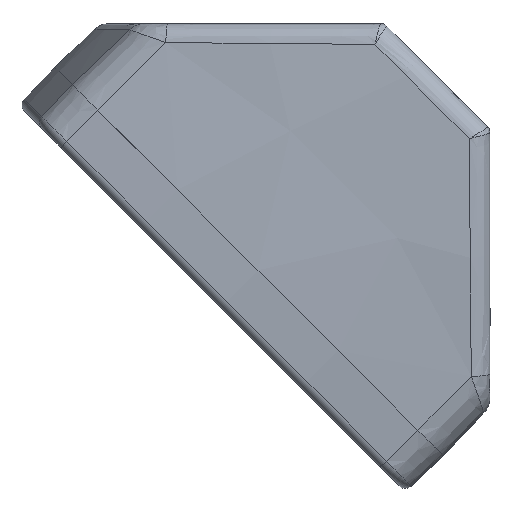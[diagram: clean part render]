
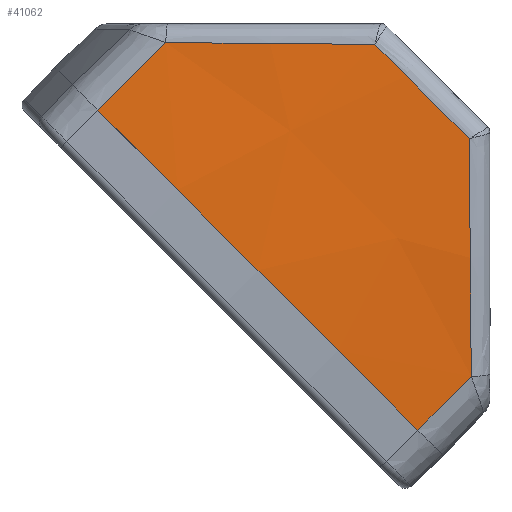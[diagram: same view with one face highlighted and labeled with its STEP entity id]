
A CAD part, left-side view. The second image highlights one B-rep face of the part: STEP entity #41062.
In plain terms, the highlighted conical face has half-angle 1.5 degrees and reference radius 300 mm.
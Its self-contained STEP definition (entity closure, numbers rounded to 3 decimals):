
#2210 = DIRECTION ( 'NONE',  ( -0.026, 0.005, -1. ) ) ;
#3560 = B_SPLINE_CURVE_WITH_KNOTS ( 'NONE', 3,
 ( #16751, #9248, #24138, #27886, #5677, #31631 ),
 .UNSPECIFIED., .F., .F.,
 ( 4, 2, 4 ),
 ( 0., 0.027, 0.054 ),
 .UNSPECIFIED. ) ;
#3817 = B_SPLINE_CURVE_WITH_KNOTS ( 'NONE', 3,
 ( #32305, #43491, #6504, #32464, #10257, #36186 ),
 .UNSPECIFIED., .F., .F.,
 ( 4, 2, 4 ),
 ( 0., 0.024, 0.048 ),
 .UNSPECIFIED. ) ;
#4984 = ORIENTED_EDGE ( 'NONE', *, *, #35418, .T. ) ;
#5677 = CARTESIAN_POINT ( 'NONE',  ( 72.971, -22.132, -48.798 ) ) ;
#5951 = CARTESIAN_POINT ( 'NONE',  ( 70.043, -54.31, 0. ) ) ;
#6504 = CARTESIAN_POINT ( 'NONE',  ( 72.769, 25.996, -43.999 ) ) ;
#7809 = EDGE_CURVE ( 'NONE', #12781, #27726, #3560, .T. ) ;
#9248 = CARTESIAN_POINT ( 'NONE',  ( 70.61, -47.828, -23.531 ) ) ;
#10257 = CARTESIAN_POINT ( 'NONE',  ( 71.242, 42.94, -27.337 ) ) ;
#11807 = VECTOR ( 'NONE', #41059, 1000. ) ;
#12781 = VERTEX_POINT ( 'NONE', #27040 ) ;
#12990 = LINE ( 'NONE', #37303, #11807 ) ;
#14049 = VERTEX_POINT ( 'NONE', #39210 ) ;
#15008 = ORIENTED_EDGE ( 'NONE', *, *, #30582, .T. ) ;
#16377 = AXIS2_PLACEMENT_3D ( 'NONE', #39046, #16867, #42790 ) ;
#16751 = CARTESIAN_POINT ( 'NONE',  ( 69.599, -54.229, -17.236 ) ) ;
#16867 = DIRECTION ( 'NONE',  ( 0., 0., 1. ) ) ;
#18041 = ORIENTED_EDGE ( 'NONE', *, *, #45130, .T. ) ;
#18269 = LINE ( 'NONE', #5951, #26925 ) ;
#18578 = CARTESIAN_POINT ( 'NONE',  ( 70.463, 48.575, -21.796 ) ) ;
#20980 = CARTESIAN_POINT ( 'NONE',  ( 73.144, -15.692, -55.131 ) ) ;
#21571 = CARTESIAN_POINT ( 'NONE',  ( 70.043, -54.31, 0. ) ) ;
#21872 = DIRECTION ( 'NONE',  ( 0., 0., -1. ) ) ;
#24138 = CARTESIAN_POINT ( 'NONE',  ( 71.409, -41.411, -29.841 ) ) ;
#24424 = DIRECTION ( 'NONE',  ( -1., 0., 0. ) ) ;
#25939 = CIRCLE ( 'NONE', #44669, 300. ) ;
#26510 = ORIENTED_EDGE ( 'NONE', *, *, #7809, .T. ) ;
#26925 = VECTOR ( 'NONE', #2210, 1000. ) ;
#27040 = CARTESIAN_POINT ( 'NONE',  ( 69.599, -54.229, -17.236 ) ) ;
#27726 = VERTEX_POINT ( 'NONE', #20980 ) ;
#27886 = CARTESIAN_POINT ( 'NONE',  ( 72.59, -28.564, -42.474 ) ) ;
#28492 = ORIENTED_EDGE ( 'NONE', *, *, #33641, .T. ) ;
#29427 = ORIENTED_EDGE ( 'NONE', *, *, #38202, .T. ) ;
#30582 = EDGE_CURVE ( 'NONE', #27726, #14049, #30797, .T. ) ;
#30797 = CIRCLE ( 'NONE', #16377, 298.556 ) ;
#31631 = CARTESIAN_POINT ( 'NONE',  ( 73.144, -15.692, -55.131 ) ) ;
#32305 = CARTESIAN_POINT ( 'NONE',  ( 73.195, 14.675, -55.131 ) ) ;
#32464 = CARTESIAN_POINT ( 'NONE',  ( 71.859, 37.297, -32.886 ) ) ;
#33441 = EDGE_LOOP ( 'NONE', ( #15008, #4984, #29427, #28492, #18041, #26510 ) ) ;
#33641 = EDGE_CURVE ( 'NONE', #37736, #46091, #25939, .T. ) ;
#35418 = EDGE_CURVE ( 'NONE', #14049, #44454, #3817, .T. ) ;
#36186 = CARTESIAN_POINT ( 'NONE',  ( 70.463, 48.575, -21.796 ) ) ;
#36458 = FACE_OUTER_BOUND ( 'NONE', #33441, .T. ) ;
#36550 = CARTESIAN_POINT ( 'NONE',  ( 71.026, 48.667, 0. ) ) ;
#37303 = CARTESIAN_POINT ( 'NONE',  ( 71.026, 48.667, 0. ) ) ;
#37736 = VERTEX_POINT ( 'NONE', #36550 ) ;
#38202 = EDGE_CURVE ( 'NONE', #44454, #37736, #12990, .T. ) ;
#38929 = AXIS2_PLACEMENT_3D ( 'NONE', #46682, #42636, #24424 ) ;
#39046 = CARTESIAN_POINT ( 'NONE',  ( -225., 0., -55.131 ) ) ;
#39210 = CARTESIAN_POINT ( 'NONE',  ( 73.195, 14.675, -55.131 ) ) ;
#41059 = DIRECTION ( 'NONE',  ( 0.026, 0.004, 1. ) ) ;
#41062 = ADVANCED_FACE ( 'NONE', ( #36458 ), #45177, .T. ) ;
#42636 = DIRECTION ( 'NONE',  ( 0., 0., 1. ) ) ;
#42790 = DIRECTION ( 'NONE',  ( 1., 0., 0. ) ) ;
#43491 = CARTESIAN_POINT ( 'NONE',  ( 73.063, 20.336, -49.564 ) ) ;
#44076 = CARTESIAN_POINT ( 'NONE',  ( -225., 0., 0. ) ) ;
#44454 = VERTEX_POINT ( 'NONE', #18578 ) ;
#44669 = AXIS2_PLACEMENT_3D ( 'NONE', #44076, #21872, #47816 ) ;
#45130 = EDGE_CURVE ( 'NONE', #46091, #12781, #18269, .T. ) ;
#45177 = CONICAL_SURFACE ( 'NONE', #38929, 300., 0.026 ) ;
#46091 = VERTEX_POINT ( 'NONE', #21571 ) ;
#46682 = CARTESIAN_POINT ( 'NONE',  ( -225., 0., 0. ) ) ;
#47816 = DIRECTION ( 'NONE',  ( -1., 0., 0. ) ) ;
